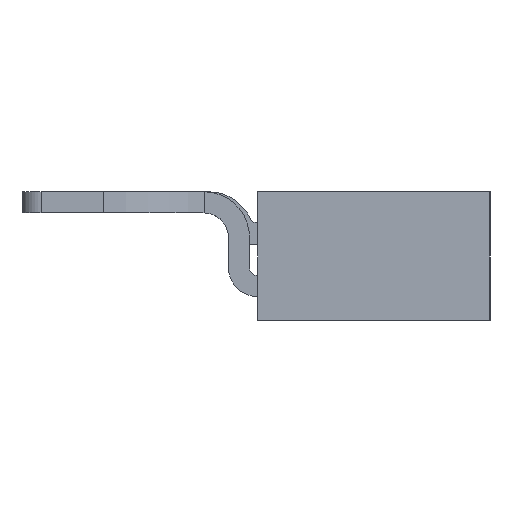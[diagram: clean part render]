
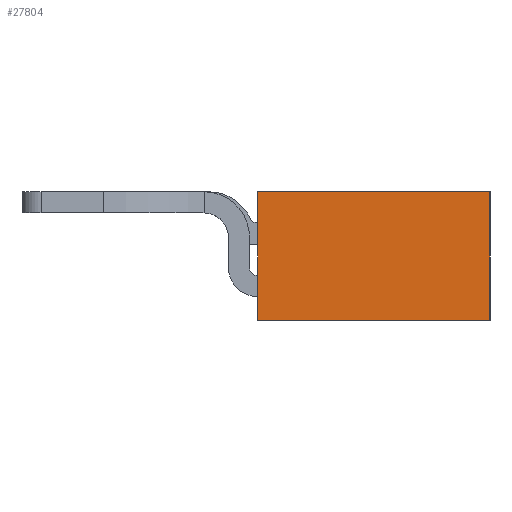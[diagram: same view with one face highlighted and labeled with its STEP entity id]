
A CAD part, left-side view. The second image highlights one B-rep face of the part: STEP entity #27804.
In plain terms, the highlighted planar face has unit normal (-1, 0, 0).
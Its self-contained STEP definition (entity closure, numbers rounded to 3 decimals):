
#72 = CARTESIAN_POINT ( 'NONE',  ( 0., 0., 7.9 ) ) ;
#561 = ORIENTED_EDGE ( 'NONE', *, *, #37313, .F. ) ;
#1277 = VERTEX_POINT ( 'NONE', #29847 ) ;
#1578 = EDGE_CURVE ( 'NONE', #27124, #33652, #21688, .T. ) ;
#3422 = DIRECTION ( 'NONE',  ( 0., 0., -1. ) ) ;
#3590 = FACE_OUTER_BOUND ( 'NONE', #18128, .T. ) ;
#3606 = CARTESIAN_POINT ( 'NONE',  ( 0., 14.3, 7.9 ) ) ;
#7605 = EDGE_CURVE ( 'NONE', #8465, #1277, #9298, .T. ) ;
#8050 = ORIENTED_EDGE ( 'NONE', *, *, #1578, .T. ) ;
#8465 = VERTEX_POINT ( 'NONE', #33159 ) ;
#8639 = VECTOR ( 'NONE', #18691, 1000. ) ;
#8906 = ORIENTED_EDGE ( 'NONE', *, *, #7605, .F. ) ;
#9298 = LINE ( 'NONE', #72, #12789 ) ;
#10522 = CARTESIAN_POINT ( 'NONE',  ( 0., 0., 0. ) ) ;
#12789 = VECTOR ( 'NONE', #20719, 1000. ) ;
#14835 = DIRECTION ( 'NONE',  ( 0., -1., 0. ) ) ;
#16131 = CARTESIAN_POINT ( 'NONE',  ( 0., 0., 7.9 ) ) ;
#17033 = CARTESIAN_POINT ( 'NONE',  ( 0., 14.3, 7.9 ) ) ;
#18128 = EDGE_LOOP ( 'NONE', ( #25900, #8906, #561, #8050 ) ) ;
#18691 = DIRECTION ( 'NONE',  ( 0., -1., 0. ) ) ;
#20719 = DIRECTION ( 'NONE',  ( 0., 0., -1. ) ) ;
#21688 = LINE ( 'NONE', #3606, #24419 ) ;
#24419 = VECTOR ( 'NONE', #3422, 1000. ) ;
#24517 = CARTESIAN_POINT ( 'NONE',  ( 0., 14.3, 0. ) ) ;
#24622 = CARTESIAN_POINT ( 'NONE',  ( 0., 0., 7.9 ) ) ;
#25900 = ORIENTED_EDGE ( 'NONE', *, *, #34583, .T. ) ;
#27124 = VERTEX_POINT ( 'NONE', #17033 ) ;
#27556 = PLANE ( 'NONE',  #29663 ) ;
#27804 = ADVANCED_FACE ( 'NONE', ( #3590 ), #27556, .F. ) ;
#28343 = DIRECTION ( 'NONE',  ( 0., 0., -1. ) ) ;
#28511 = LINE ( 'NONE', #16131, #8639 ) ;
#29663 = AXIS2_PLACEMENT_3D ( 'NONE', #24622, #36974, #28343 ) ;
#29847 = CARTESIAN_POINT ( 'NONE',  ( 0., 0., 0. ) ) ;
#33159 = CARTESIAN_POINT ( 'NONE',  ( 0., 0., 7.9 ) ) ;
#33652 = VERTEX_POINT ( 'NONE', #24517 ) ;
#34583 = EDGE_CURVE ( 'NONE', #33652, #1277, #37444, .T. ) ;
#35174 = VECTOR ( 'NONE', #14835, 1000. ) ;
#36974 = DIRECTION ( 'NONE',  ( 1., 0., 0. ) ) ;
#37313 = EDGE_CURVE ( 'NONE', #27124, #8465, #28511, .T. ) ;
#37444 = LINE ( 'NONE', #10522, #35174 ) ;
